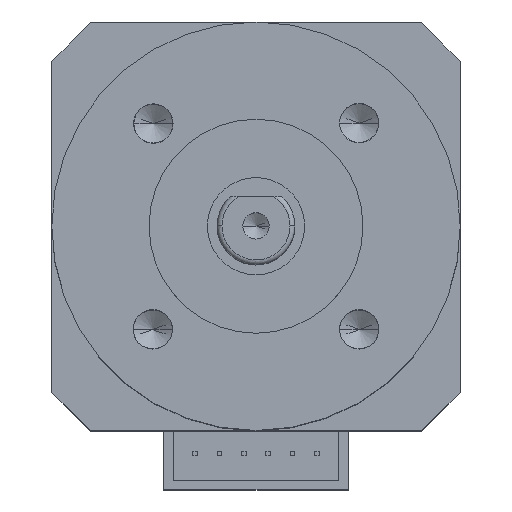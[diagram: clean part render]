
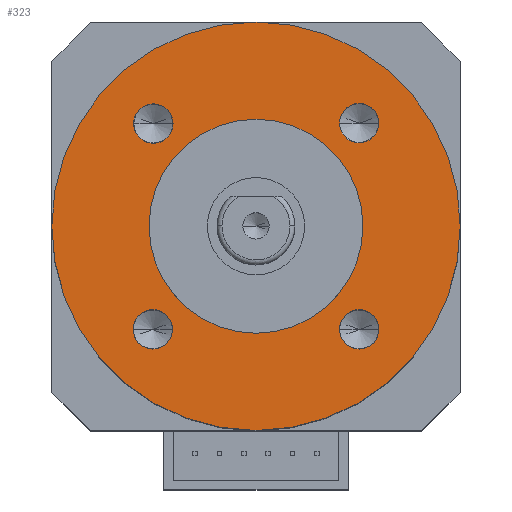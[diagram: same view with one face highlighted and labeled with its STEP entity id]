
A CAD part, top view. The second image highlights one B-rep face of the part: STEP entity #323.
In plain terms, the highlighted planar face has unit normal (0, 0, 1).
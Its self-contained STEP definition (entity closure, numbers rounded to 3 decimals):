
#111 = DIRECTION ( 'NONE',  ( 0., 0., -1. ) ) ;
#126 = CIRCLE ( 'NONE', #1380, 2.025 ) ;
#131 = CARTESIAN_POINT ( 'NONE',  ( -8.582, -10.607, 0. ) ) ;
#147 = CARTESIAN_POINT ( 'NONE',  ( -10.607, -10.607, 0. ) ) ;
#156 = DIRECTION ( 'NONE',  ( 1., 0., 0. ) ) ;
#164 = CARTESIAN_POINT ( 'NONE',  ( 0., 0., 0. ) ) ;
#182 = DIRECTION ( 'NONE',  ( 0., 0., 1. ) ) ;
#185 = EDGE_CURVE ( 'NONE', #3204, #551, #2827, .T. ) ;
#307 = FACE_BOUND ( 'NONE', #2864, .T. ) ;
#323 = ADVANCED_FACE ( 'NONE', ( #2822, #3259, #1852, #307, #2689, #1671 ), #1999, .F. ) ;
#339 = VERTEX_POINT ( 'NONE', #2887 ) ;
#341 = DIRECTION ( 'NONE',  ( 0., 0., 1. ) ) ;
#361 = DIRECTION ( 'NONE',  ( 0., 0., 1. ) ) ;
#406 = AXIS2_PLACEMENT_3D ( 'NONE', #147, #1053, #2733 ) ;
#435 = EDGE_LOOP ( 'NONE', ( #2022, #2286 ) ) ;
#512 = CARTESIAN_POINT ( 'NONE',  ( -10.607, -10.607, 0. ) ) ;
#515 = DIRECTION ( 'NONE',  ( 0., 0., 1. ) ) ;
#547 = VERTEX_POINT ( 'NONE', #661 ) ;
#548 = AXIS2_PLACEMENT_3D ( 'NONE', #2299, #2586, #866 ) ;
#551 = VERTEX_POINT ( 'NONE', #131 ) ;
#574 = DIRECTION ( 'NONE',  ( 1., 0., 0. ) ) ;
#590 = ORIENTED_EDGE ( 'NONE', *, *, #1912, .F. ) ;
#619 = DIRECTION ( 'NONE',  ( 1., 0., 0. ) ) ;
#661 = CARTESIAN_POINT ( 'NONE',  ( -21., 0., 0. ) ) ;
#669 = CARTESIAN_POINT ( 'NONE',  ( -12.583, 10.558, 0. ) ) ;
#812 = CIRCLE ( 'NONE', #962, 11. ) ;
#866 = DIRECTION ( 'NONE',  ( -1., 0., 0. ) ) ;
#887 = VERTEX_POINT ( 'NONE', #3458 ) ;
#962 = AXIS2_PLACEMENT_3D ( 'NONE', #3253, #3551, #1010 ) ;
#978 = ORIENTED_EDGE ( 'NONE', *, *, #1824, .F. ) ;
#996 = CARTESIAN_POINT ( 'NONE',  ( 8.582, -10.607, 0. ) ) ;
#1008 = VERTEX_POINT ( 'NONE', #2066 ) ;
#1010 = DIRECTION ( 'NONE',  ( -1., 0., 0. ) ) ;
#1049 = DIRECTION ( 'NONE',  ( -1., 0., 0. ) ) ;
#1053 = DIRECTION ( 'NONE',  ( 0., 0., 1. ) ) ;
#1058 = VERTEX_POINT ( 'NONE', #2037 ) ;
#1095 = DIRECTION ( 'NONE',  ( 0., 0., 1. ) ) ;
#1177 = VERTEX_POINT ( 'NONE', #669 ) ;
#1195 = CIRCLE ( 'NONE', #2331, 21. ) ;
#1247 = ORIENTED_EDGE ( 'NONE', *, *, #185, .F. ) ;
#1300 = CIRCLE ( 'NONE', #3263, 2.025 ) ;
#1313 = EDGE_LOOP ( 'NONE', ( #1389, #2347 ) ) ;
#1353 = CARTESIAN_POINT ( 'NONE',  ( 10.607, -10.607, 0. ) ) ;
#1374 = CIRCLE ( 'NONE', #2075, 2.025 ) ;
#1380 = AXIS2_PLACEMENT_3D ( 'NONE', #2513, #182, #3628 ) ;
#1389 = ORIENTED_EDGE ( 'NONE', *, *, #1409, .F. ) ;
#1392 = CIRCLE ( 'NONE', #3019, 11. ) ;
#1409 = EDGE_CURVE ( 'NONE', #1008, #1177, #3657, .T. ) ;
#1452 = VERTEX_POINT ( 'NONE', #3293 ) ;
#1535 = ORIENTED_EDGE ( 'NONE', *, *, #2954, .F. ) ;
#1621 = AXIS2_PLACEMENT_3D ( 'NONE', #164, #111, #2708 ) ;
#1671 = FACE_BOUND ( 'NONE', #3181, .T. ) ;
#1768 = AXIS2_PLACEMENT_3D ( 'NONE', #1353, #1899, #156 ) ;
#1824 = EDGE_CURVE ( 'NONE', #551, #3204, #2802, .T. ) ;
#1852 = FACE_BOUND ( 'NONE', #3324, .T. ) ;
#1899 = DIRECTION ( 'NONE',  ( 0., 0., 1. ) ) ;
#1912 = EDGE_CURVE ( 'NONE', #3393, #1452, #3379, .T. ) ;
#1932 = CARTESIAN_POINT ( 'NONE',  ( 21., 0., 0. ) ) ;
#1947 = CARTESIAN_POINT ( 'NONE',  ( 10.607, -10.607, 0. ) ) ;
#1999 = PLANE ( 'NONE',  #548 ) ;
#2022 = ORIENTED_EDGE ( 'NONE', *, *, #2148, .F. ) ;
#2029 = EDGE_CURVE ( 'NONE', #1452, #3393, #3151, .T. ) ;
#2037 = CARTESIAN_POINT ( 'NONE',  ( 12.632, 10.607, 0. ) ) ;
#2055 = EDGE_CURVE ( 'NONE', #547, #3577, #1195, .T. ) ;
#2066 = CARTESIAN_POINT ( 'NONE',  ( -8.533, 10.558, 0. ) ) ;
#2075 = AXIS2_PLACEMENT_3D ( 'NONE', #2385, #341, #574 ) ;
#2148 = EDGE_CURVE ( 'NONE', #1058, #339, #1374, .T. ) ;
#2155 = ORIENTED_EDGE ( 'NONE', *, *, #2438, .F. ) ;
#2211 = CARTESIAN_POINT ( 'NONE',  ( -11., 0., 0. ) ) ;
#2270 = DIRECTION ( 'NONE',  ( 1., 0., 0. ) ) ;
#2286 = ORIENTED_EDGE ( 'NONE', *, *, #2458, .F. ) ;
#2299 = CARTESIAN_POINT ( 'NONE',  ( -21., -21., 0. ) ) ;
#2331 = AXIS2_PLACEMENT_3D ( 'NONE', #3682, #3640, #3349 ) ;
#2337 = ORIENTED_EDGE ( 'NONE', *, *, #2945, .F. ) ;
#2347 = ORIENTED_EDGE ( 'NONE', *, *, #3369, .F. ) ;
#2385 = CARTESIAN_POINT ( 'NONE',  ( 10.607, 10.607, 0. ) ) ;
#2438 = EDGE_CURVE ( 'NONE', #887, #3633, #1392, .T. ) ;
#2458 = EDGE_CURVE ( 'NONE', #339, #1058, #126, .T. ) ;
#2478 = CARTESIAN_POINT ( 'NONE',  ( 0., 0., 0. ) ) ;
#2513 = CARTESIAN_POINT ( 'NONE',  ( 10.607, 10.607, 0. ) ) ;
#2586 = DIRECTION ( 'NONE',  ( 0., 0., -1. ) ) ;
#2689 = FACE_OUTER_BOUND ( 'NONE', #3297, .T. ) ;
#2700 = DIRECTION ( 'NONE',  ( 0., 0., 1. ) ) ;
#2708 = DIRECTION ( 'NONE',  ( 1., 0., 0. ) ) ;
#2733 = DIRECTION ( 'NONE',  ( 1., 0., 0. ) ) ;
#2741 = ORIENTED_EDGE ( 'NONE', *, *, #2029, .F. ) ;
#2767 = DIRECTION ( 'NONE',  ( 0., 0., 1. ) ) ;
#2802 = CIRCLE ( 'NONE', #406, 2.025 ) ;
#2822 = FACE_BOUND ( 'NONE', #1313, .T. ) ;
#2827 = CIRCLE ( 'NONE', #3102, 2.025 ) ;
#2864 = EDGE_LOOP ( 'NONE', ( #978, #1247 ) ) ;
#2887 = CARTESIAN_POINT ( 'NONE',  ( 8.582, 10.607, 0. ) ) ;
#2945 = EDGE_CURVE ( 'NONE', #3577, #547, #3304, .T. ) ;
#2953 = CARTESIAN_POINT ( 'NONE',  ( -10.558, 10.558, 0. ) ) ;
#2954 = EDGE_CURVE ( 'NONE', #3633, #887, #812, .T. ) ;
#3019 = AXIS2_PLACEMENT_3D ( 'NONE', #2478, #2767, #1049 ) ;
#3102 = AXIS2_PLACEMENT_3D ( 'NONE', #512, #1095, #2270 ) ;
#3112 = AXIS2_PLACEMENT_3D ( 'NONE', #3512, #361, #619 ) ;
#3151 = CIRCLE ( 'NONE', #3233, 2.025 ) ;
#3159 = ORIENTED_EDGE ( 'NONE', *, *, #2055, .F. ) ;
#3181 = EDGE_LOOP ( 'NONE', ( #1535, #2155 ) ) ;
#3188 = CARTESIAN_POINT ( 'NONE',  ( -12.632, -10.607, 0. ) ) ;
#3204 = VERTEX_POINT ( 'NONE', #3188 ) ;
#3233 = AXIS2_PLACEMENT_3D ( 'NONE', #1947, #515, #3692 ) ;
#3238 = DIRECTION ( 'NONE',  ( 1., 0., 0. ) ) ;
#3253 = CARTESIAN_POINT ( 'NONE',  ( 0., 0., 0. ) ) ;
#3259 = FACE_BOUND ( 'NONE', #435, .T. ) ;
#3263 = AXIS2_PLACEMENT_3D ( 'NONE', #2953, #2700, #3238 ) ;
#3293 = CARTESIAN_POINT ( 'NONE',  ( 12.632, -10.607, 0. ) ) ;
#3297 = EDGE_LOOP ( 'NONE', ( #2337, #3159 ) ) ;
#3304 = CIRCLE ( 'NONE', #1621, 21. ) ;
#3324 = EDGE_LOOP ( 'NONE', ( #2741, #590 ) ) ;
#3349 = DIRECTION ( 'NONE',  ( 1., 0., 0. ) ) ;
#3369 = EDGE_CURVE ( 'NONE', #1177, #1008, #1300, .T. ) ;
#3379 = CIRCLE ( 'NONE', #1768, 2.025 ) ;
#3393 = VERTEX_POINT ( 'NONE', #996 ) ;
#3458 = CARTESIAN_POINT ( 'NONE',  ( 11., 0., 0. ) ) ;
#3512 = CARTESIAN_POINT ( 'NONE',  ( -10.558, 10.558, 0. ) ) ;
#3551 = DIRECTION ( 'NONE',  ( 0., 0., 1. ) ) ;
#3577 = VERTEX_POINT ( 'NONE', #1932 ) ;
#3628 = DIRECTION ( 'NONE',  ( 1., 0., 0. ) ) ;
#3633 = VERTEX_POINT ( 'NONE', #2211 ) ;
#3640 = DIRECTION ( 'NONE',  ( 0., 0., -1. ) ) ;
#3657 = CIRCLE ( 'NONE', #3112, 2.025 ) ;
#3682 = CARTESIAN_POINT ( 'NONE',  ( 0., 0., 0. ) ) ;
#3692 = DIRECTION ( 'NONE',  ( 1., 0., 0. ) ) ;
